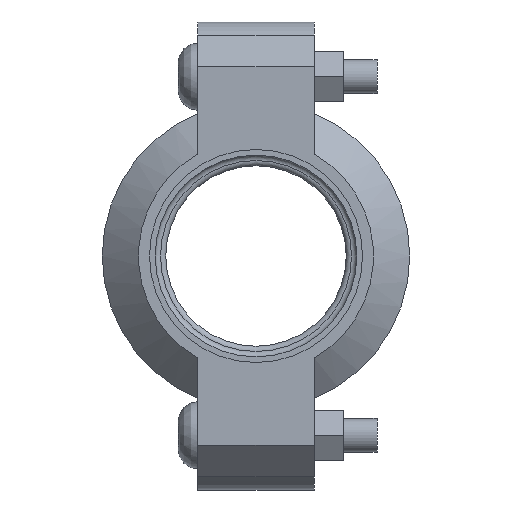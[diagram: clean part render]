
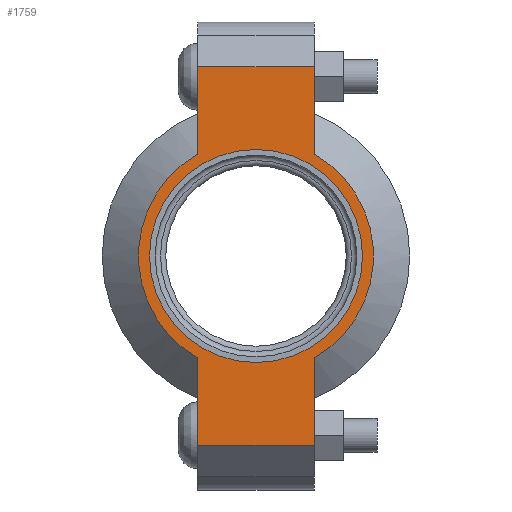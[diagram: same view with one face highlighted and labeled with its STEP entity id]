
A CAD part, left-side view. The second image highlights one B-rep face of the part: STEP entity #1759.
In plain terms, the highlighted planar face has unit normal (-1, 0, 0) as drawn and (0, 0, 1) by its records, which use the part's own axes.
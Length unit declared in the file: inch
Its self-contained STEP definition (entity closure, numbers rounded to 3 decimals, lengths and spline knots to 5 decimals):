
#109=LINE('',#3114,#202);
#117=LINE('',#3150,#210);
#124=LINE('',#3171,#217);
#133=LINE('',#3203,#226);
#134=LINE('',#3207,#227);
#135=LINE('',#3209,#228);
#202=VECTOR('',#2551,0.3937);
#210=VECTOR('',#2567,0.3937);
#217=VECTOR('',#2586,0.3937);
#226=VECTOR('',#2611,0.3937);
#227=VECTOR('',#2616,0.3937);
#228=VECTOR('',#2617,0.3937);
#276=FACE_BOUND('',#510,.T.);
#316=PLANE('',#2069);
#400=FACE_OUTER_BOUND('',#509,.T.);
#509=EDGE_LOOP('',(#1513,#1514,#1515,#1516,#1517,#1518,#1519,#1520));
#510=EDGE_LOOP('',(#1521));
#633=CIRCLE('',#2011,1.1875);
#659=CIRCLE('',#2070,1.31);
#660=CIRCLE('',#2071,1.31);
#760=VERTEX_POINT('',#2930);
#803=VERTEX_POINT('',#3111);
#804=VERTEX_POINT('',#3113);
#815=VERTEX_POINT('',#3145);
#816=VERTEX_POINT('',#3149);
#823=VERTEX_POINT('',#3168);
#824=VERTEX_POINT('',#3170);
#834=VERTEX_POINT('',#3206);
#835=VERTEX_POINT('',#3208);
#967=EDGE_CURVE('',#760,#760,#633,.T.);
#1028=EDGE_CURVE('',#804,#803,#109,.T.);
#1042=EDGE_CURVE('',#816,#815,#117,.T.);
#1052=EDGE_CURVE('',#824,#823,#124,.T.);
#1067=EDGE_CURVE('',#816,#803,#133,.T.);
#1068=EDGE_CURVE('',#815,#824,#659,.T.);
#1069=EDGE_CURVE('',#834,#823,#134,.T.);
#1070=EDGE_CURVE('',#834,#835,#135,.T.);
#1071=EDGE_CURVE('',#835,#804,#660,.T.);
#1513=ORIENTED_EDGE('',*,*,#1067,.F.);
#1514=ORIENTED_EDGE('',*,*,#1042,.T.);
#1515=ORIENTED_EDGE('',*,*,#1068,.T.);
#1516=ORIENTED_EDGE('',*,*,#1052,.T.);
#1517=ORIENTED_EDGE('',*,*,#1069,.F.);
#1518=ORIENTED_EDGE('',*,*,#1070,.T.);
#1519=ORIENTED_EDGE('',*,*,#1071,.T.);
#1520=ORIENTED_EDGE('',*,*,#1028,.T.);
#1521=ORIENTED_EDGE('',*,*,#967,.T.);
#1759=ADVANCED_FACE('',(#400,#276),#316,.T.);
#2011=AXIS2_PLACEMENT_3D('',#2932,#2427,#2428);
#2069=AXIS2_PLACEMENT_3D('',#3204,#2612,#2613);
#2070=AXIS2_PLACEMENT_3D('',#3205,#2614,#2615);
#2071=AXIS2_PLACEMENT_3D('',#3210,#2618,#2619);
#2427=DIRECTION('center_axis',(0.,0.,-1.));
#2428=DIRECTION('ref_axis',(1.,0.,0.));
#2551=DIRECTION('',(1.,0.,0.));
#2567=DIRECTION('',(-1.,0.,0.));
#2586=DIRECTION('',(-1.,0.,0.));
#2611=DIRECTION('',(0.,-1.,0.));
#2612=DIRECTION('center_axis',(0.,0.,1.));
#2613=DIRECTION('ref_axis',(-1.,0.,0.));
#2614=DIRECTION('center_axis',(0.,0.,1.));
#2615=DIRECTION('ref_axis',(1.,0.,0.));
#2616=DIRECTION('',(0.,1.,0.));
#2617=DIRECTION('',(1.,0.,0.));
#2618=DIRECTION('center_axis',(0.,0.,1.));
#2619=DIRECTION('ref_axis',(1.,0.,0.));
#2930=CARTESIAN_POINT('',(-1.1875,0.,0.94));
#2932=CARTESIAN_POINT('Origin',(0.,0.,0.94));
#3111=CARTESIAN_POINT('',(2.11,-0.65,0.94));
#3113=CARTESIAN_POINT('',(1.13737,-0.65,0.94));
#3114=CARTESIAN_POINT('',(2.61,-0.65,0.94));
#3145=CARTESIAN_POINT('',(1.13737,0.65,0.94));
#3149=CARTESIAN_POINT('',(2.11,0.65,0.94));
#3150=CARTESIAN_POINT('',(-2.61,0.65,0.94));
#3168=CARTESIAN_POINT('',(-2.11,0.65,0.94));
#3170=CARTESIAN_POINT('',(-1.13737,0.65,0.94));
#3171=CARTESIAN_POINT('',(-2.61,0.65,0.94));
#3203=CARTESIAN_POINT('',(2.11,-0.325,0.94));
#3204=CARTESIAN_POINT('Origin',(0.,0.,
0.94));
#3205=CARTESIAN_POINT('Origin',(0.,0.,0.94));
#3206=CARTESIAN_POINT('',(-2.11,-0.65,0.94));
#3207=CARTESIAN_POINT('',(-2.11,0.325,0.94));
#3208=CARTESIAN_POINT('',(-1.13737,-0.65,0.94));
#3209=CARTESIAN_POINT('',(2.61,-0.65,0.94));
#3210=CARTESIAN_POINT('Origin',(0.,0.,0.94));
